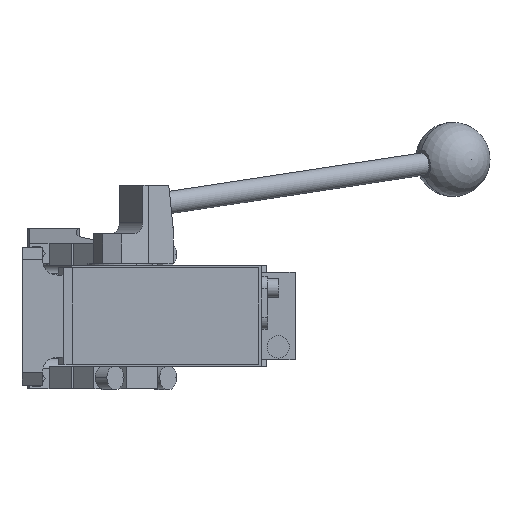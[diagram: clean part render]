
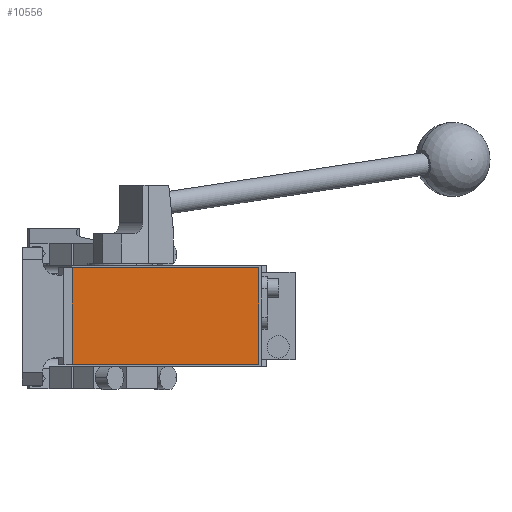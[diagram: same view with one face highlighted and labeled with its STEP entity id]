
A CAD part, front view. The second image highlights one B-rep face of the part: STEP entity #10556.
In plain terms, the highlighted planar face has unit normal (0, -1, 0).
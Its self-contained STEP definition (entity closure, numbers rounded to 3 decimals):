
#253 = PLANE ( 'NONE',  #5118 ) ;
#1288 = LINE ( 'NONE', #12621, #12416 ) ;
#1506 = ORIENTED_EDGE ( 'NONE', *, *, #4611, .T. ) ;
#1629 = CARTESIAN_POINT ( 'NONE',  ( -19., -286.5, -26. ) ) ;
#1977 = LINE ( 'NONE', #9514, #2403 ) ;
#2377 = CARTESIAN_POINT ( 'NONE',  ( 81., -286.5, -26. ) ) ;
#2403 = VECTOR ( 'NONE', #3293, 1000. ) ;
#2418 = VERTEX_POINT ( 'NONE', #14540 ) ;
#2856 = DIRECTION ( 'NONE',  ( 0., 0., -1. ) ) ;
#3293 = DIRECTION ( 'NONE',  ( 1., 0., 0. ) ) ;
#4124 = CARTESIAN_POINT ( 'NONE',  ( 81., -286.5, 26. ) ) ;
#4176 = DIRECTION ( 'NONE',  ( 0., 0., -1. ) ) ;
#4437 = ORIENTED_EDGE ( 'NONE', *, *, #15298, .T. ) ;
#4611 = EDGE_CURVE ( 'NONE', #14203, #15483, #1977, .T. ) ;
#5118 = AXIS2_PLACEMENT_3D ( 'NONE', #15218, #9175, #2856 ) ;
#6286 = DIRECTION ( 'NONE',  ( -1., 0., 0. ) ) ;
#6809 = VECTOR ( 'NONE', #9364, 1000. ) ;
#6897 = EDGE_CURVE ( 'NONE', #15483, #13849, #10577, .T. ) ;
#6980 = CARTESIAN_POINT ( 'NONE',  ( 81., -286.5, 26. ) ) ;
#7397 = EDGE_CURVE ( 'NONE', #2418, #14203, #15368, .T. ) ;
#7720 = ORIENTED_EDGE ( 'NONE', *, *, #7397, .T. ) ;
#9175 = DIRECTION ( 'NONE',  ( 0., -1., 0. ) ) ;
#9364 = DIRECTION ( 'NONE',  ( 0., 0., 1. ) ) ;
#9514 = CARTESIAN_POINT ( 'NONE',  ( -19., -286.5, -26. ) ) ;
#10317 = FACE_OUTER_BOUND ( 'NONE', #14293, .T. ) ;
#10556 = ADVANCED_FACE ( 'NONE', ( #10317 ), #253, .T. ) ;
#10577 = LINE ( 'NONE', #6980, #6809 ) ;
#10717 = VECTOR ( 'NONE', #4176, 1000. ) ;
#12416 = VECTOR ( 'NONE', #6286, 1000. ) ;
#12621 = CARTESIAN_POINT ( 'NONE',  ( -19., -286.5, 26. ) ) ;
#12756 = ORIENTED_EDGE ( 'NONE', *, *, #6897, .T. ) ;
#13849 = VERTEX_POINT ( 'NONE', #4124 ) ;
#14203 = VERTEX_POINT ( 'NONE', #1629 ) ;
#14293 = EDGE_LOOP ( 'NONE', ( #7720, #1506, #12756, #4437 ) ) ;
#14540 = CARTESIAN_POINT ( 'NONE',  ( -19., -286.5, 26. ) ) ;
#15218 = CARTESIAN_POINT ( 'NONE',  ( 0., -286.5, 0. ) ) ;
#15294 = CARTESIAN_POINT ( 'NONE',  ( -19., -286.5, 26. ) ) ;
#15298 = EDGE_CURVE ( 'NONE', #13849, #2418, #1288, .T. ) ;
#15368 = LINE ( 'NONE', #15294, #10717 ) ;
#15483 = VERTEX_POINT ( 'NONE', #2377 ) ;
